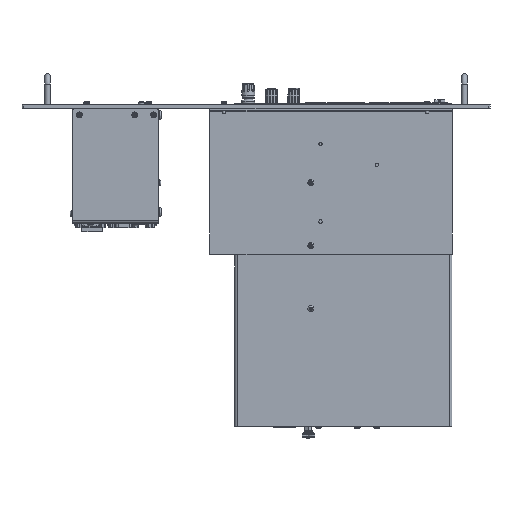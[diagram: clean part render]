
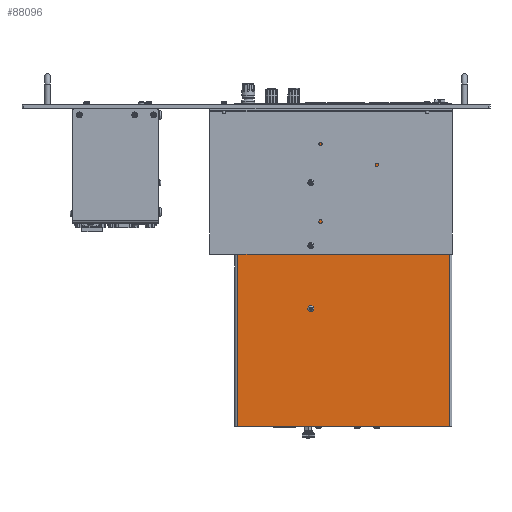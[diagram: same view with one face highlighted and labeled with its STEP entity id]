
A CAD part, front view. The second image highlights one B-rep face of the part: STEP entity #88096.
In plain terms, the highlighted planar face has unit normal (0, -1, 0).
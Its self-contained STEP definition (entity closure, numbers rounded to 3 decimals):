
#4028=LINE('',#131637,#10600);
#4043=LINE('',#131671,#10615);
#4059=LINE('',#131698,#10631);
#6824=LINE('',#155729,#13396);
#10600=VECTOR('',#104881,10.);
#10615=VECTOR('',#104904,10.);
#10631=VECTOR('',#104926,10.);
#13396=VECTOR('',#113653,10.);
#16569=FACE_BOUND('',#28718,.T.);
#16570=FACE_BOUND('',#28719,.T.);
#16571=FACE_BOUND('',#28720,.T.);
#18776=PLANE('',#95195);
#23294=FACE_OUTER_BOUND('',#28717,.T.);
#28717=EDGE_LOOP('',(#73092,#73093,#73094,#73095));
#28718=EDGE_LOOP('',(#73096,#73097));
#28719=EDGE_LOOP('',(#73098));
#28720=EDGE_LOOP('',(#73099,#73100));
#32772=CIRCLE('',#92330,3.);
#32790=CIRCLE('',#92370,2.8);
#32791=CIRCLE('',#92371,2.8);
#32796=CIRCLE('',#92377,2.8);
#32797=CIRCLE('',#92378,2.8);
#37509=VERTEX_POINT('',#131634);
#37510=VERTEX_POINT('',#131636);
#37524=VERTEX_POINT('',#131668);
#37525=VERTEX_POINT('',#131670);
#37664=VERTEX_POINT('',#132041);
#37698=VERTEX_POINT('',#132203);
#37699=VERTEX_POINT('',#132205);
#37702=VERTEX_POINT('',#132241);
#37703=VERTEX_POINT('',#132243);
#46645=EDGE_CURVE('',#37510,#37509,#4028,.T.);
#46662=EDGE_CURVE('',#37525,#37524,#4043,.T.);
#46679=EDGE_CURVE('',#37524,#37510,#4059,.T.);
#46856=EDGE_CURVE('',#37664,#37664,#32772,.T.);
#46912=EDGE_CURVE('',#37698,#37699,#32790,.T.);
#46913=EDGE_CURVE('',#37699,#37698,#32791,.T.);
#46918=EDGE_CURVE('',#37702,#37703,#32796,.T.);
#46919=EDGE_CURVE('',#37703,#37702,#32797,.T.);
#51744=EDGE_CURVE('',#37509,#37525,#6824,.T.);
#73092=ORIENTED_EDGE('',*,*,#51744,.T.);
#73093=ORIENTED_EDGE('',*,*,#46662,.T.);
#73094=ORIENTED_EDGE('',*,*,#46679,.T.);
#73095=ORIENTED_EDGE('',*,*,#46645,.T.);
#73096=ORIENTED_EDGE('',*,*,#46913,.F.);
#73097=ORIENTED_EDGE('',*,*,#46912,.F.);
#73098=ORIENTED_EDGE('',*,*,#46856,.T.);
#73099=ORIENTED_EDGE('',*,*,#46919,.F.);
#73100=ORIENTED_EDGE('',*,*,#46918,.F.);
#88096=ADVANCED_FACE('',(#23294,#16569,#16570,#16571),#18776,.F.);
#92330=AXIS2_PLACEMENT_3D('',#132042,#105254,#105255);
#92370=AXIS2_PLACEMENT_3D('',#132206,#105360,#105361);
#92371=AXIS2_PLACEMENT_3D('',#132207,#105362,#105363);
#92377=AXIS2_PLACEMENT_3D('',#132244,#105374,#105375);
#92378=AXIS2_PLACEMENT_3D('',#132245,#105376,#105377);
#95195=AXIS2_PLACEMENT_3D('',#155728,#113651,#113652);
#104881=DIRECTION('',(0.,0.,1.));
#104904=DIRECTION('',(0.,0.,-1.));
#104926=DIRECTION('',(1.,0.,0.));
#105254=DIRECTION('center_axis',(0.,1.,0.));
#105255=DIRECTION('ref_axis',(0.,0.,
-1.));
#105360=DIRECTION('center_axis',(0.,-1.,0.));
#105361=DIRECTION('ref_axis',(0.,0.,-1.));
#105362=DIRECTION('center_axis',(0.,-1.,0.));
#105363=DIRECTION('ref_axis',(0.,0.,-1.));
#105374=DIRECTION('center_axis',(0.,-1.,0.));
#105375=DIRECTION('ref_axis',(0.,0.,-1.));
#105376=DIRECTION('center_axis',(0.,-1.,0.));
#105377=DIRECTION('ref_axis',(0.,0.,-1.));
#113651=DIRECTION('center_axis',(0.,1.,0.));
#113652=DIRECTION('ref_axis',(0.,0.,
1.));
#113653=DIRECTION('',(-1.,0.,0.));
#131634=CARTESIAN_POINT('',(199.,-26.25,0.));
#131636=CARTESIAN_POINT('',(199.,-26.25,-327.75));
#131637=CARTESIAN_POINT('',(199.,-26.25,-244.5));
#131668=CARTESIAN_POINT('',(-19.,-26.25,-327.75));
#131670=CARTESIAN_POINT('',(-19.,-26.25,0.));
#131671=CARTESIAN_POINT('',(-19.,-26.25,-78.));
#131698=CARTESIAN_POINT('',(-22.,-26.25,-327.75));
#132041=CARTESIAN_POINT('',(56.5,-26.25,-203.25));
#132042=CARTESIAN_POINT('Origin',(56.5,-26.25,-206.25));
#132203=CARTESIAN_POINT('',(56.5,-26.25,-144.05));
#132205=CARTESIAN_POINT('',(56.5,-26.25,-138.45));
#132206=CARTESIAN_POINT('Origin',(56.5,-26.25,-141.25));
#132207=CARTESIAN_POINT('Origin',(56.5,-26.25,-141.25));
#132241=CARTESIAN_POINT('',(56.564,-26.25,-73.451));
#132243=CARTESIAN_POINT('',(56.436,-26.25,-79.049));
#132244=CARTESIAN_POINT('Origin',(56.5,-26.25,-76.25));
#132245=CARTESIAN_POINT('Origin',(56.5,-26.25,-76.25));
#155728=CARTESIAN_POINT('Origin',(90.,-26.25,-161.25));
#155729=CARTESIAN_POINT('',(45.,-26.25,0.));
